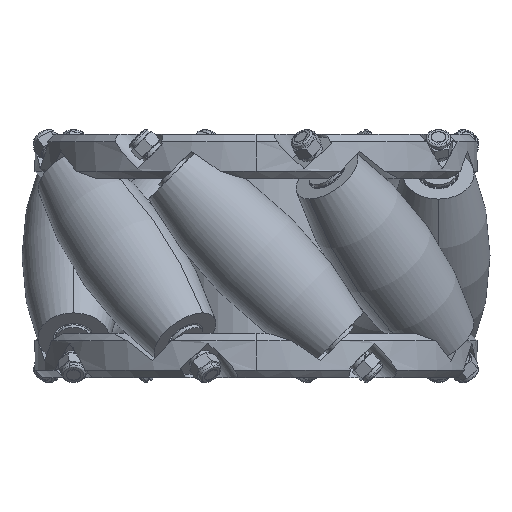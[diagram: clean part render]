
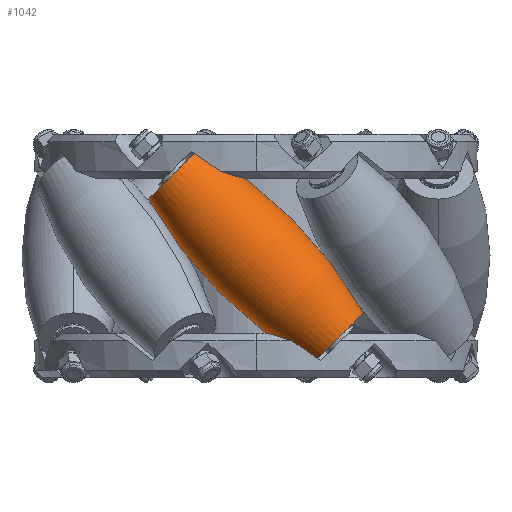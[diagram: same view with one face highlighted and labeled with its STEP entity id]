
A CAD part, left-side view. The second image highlights one B-rep face of the part: STEP entity #1042.
In plain terms, the highlighted toroidal (fillet/blend) face has major radius 102.5 mm and minor radius 116.5 mm.
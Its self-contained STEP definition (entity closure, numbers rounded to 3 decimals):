
#18 = DIRECTION ( 'NONE',  ( -0.707, 0., -0.707 ) ) ;
#1042 = ADVANCED_FACE ( 'NONE', ( #6557 ), #1605, .T. ) ;
#1355 = EDGE_LOOP ( 'NONE', ( #11047, #8821, #3679, #7903 ) ) ;
#1605 = TOROIDAL_SURFACE ( 'NONE', #10546, -102.5, 116.5 ) ;
#1696 = DIRECTION ( 'NONE',  ( -0.707, 0., -0.707 ) ) ;
#2289 = AXIS2_PLACEMENT_3D ( 'NONE', #5559, #18, #6495 ) ;
#3235 = CARTESIAN_POINT ( 'NONE',  ( -22.274, 49.5, -22.274 ) ) ;
#3679 = ORIENTED_EDGE ( 'NONE', *, *, #8191, .F. ) ;
#3866 = CARTESIAN_POINT ( 'NONE',  ( 0., 49.5, 0. ) ) ;
#4166 = DIRECTION ( 'NONE',  ( -0.707, 0., 0.707 ) ) ;
#4609 = DIRECTION ( 'NONE',  ( 0., -1., 0. ) ) ;
#4810 = CARTESIAN_POINT ( 'NONE',  ( -72.478, 49.5, 72.478 ) ) ;
#5324 = DIRECTION ( 'NONE',  ( -0.707, 0., 0.707 ) ) ;
#5559 = CARTESIAN_POINT ( 'NONE',  ( 22.274, 49.5, 22.274 ) ) ;
#5601 = CIRCLE ( 'NONE', #9526, 9.661 ) ;
#5671 = CARTESIAN_POINT ( 'NONE',  ( 29.105, 49.5, 15.443 ) ) ;
#5753 = DIRECTION ( 'NONE',  ( 0., 0., 1. ) ) ;
#5928 = CARTESIAN_POINT ( 'NONE',  ( -15.443, 49.5, -29.105 ) ) ;
#6495 = DIRECTION ( 'NONE',  ( -0.707, 0., 0.707 ) ) ;
#6557 = FACE_OUTER_BOUND ( 'NONE', #1355, .T. ) ;
#7065 = CIRCLE ( 'NONE', #10376, 116.5 ) ;
#7513 = VERTEX_POINT ( 'NONE', #5928 ) ;
#7884 = EDGE_CURVE ( 'NONE', #11020, #11645, #11679, .T. ) ;
#7903 = ORIENTED_EDGE ( 'NONE', *, *, #9595, .F. ) ;
#8030 = EDGE_CURVE ( 'NONE', #11645, #7513, #7065, .T. ) ;
#8191 = EDGE_CURVE ( 'NONE', #11319, #7513, #5601, .T. ) ;
#8821 = ORIENTED_EDGE ( 'NONE', *, *, #8030, .T. ) ;
#8851 = CARTESIAN_POINT ( 'NONE',  ( -29.105, 49.5, -15.443 ) ) ;
#9526 = AXIS2_PLACEMENT_3D ( 'NONE', #3235, #9725, #4166 ) ;
#9595 = EDGE_CURVE ( 'NONE', #11020, #11319, #11534, .T. ) ;
#9668 = CARTESIAN_POINT ( 'NONE',  ( 15.443, 49.5, 29.105 ) ) ;
#9725 = DIRECTION ( 'NONE',  ( -0.707, 0., -0.707 ) ) ;
#10160 = CARTESIAN_POINT ( 'NONE',  ( 72.478, 49.5, -72.478 ) ) ;
#10376 = AXIS2_PLACEMENT_3D ( 'NONE', #4810, #11315, #5753 ) ;
#10546 = AXIS2_PLACEMENT_3D ( 'NONE', #3866, #1696, #5324 ) ;
#11020 = VERTEX_POINT ( 'NONE', #9668 ) ;
#11047 = ORIENTED_EDGE ( 'NONE', *, *, #7884, .T. ) ;
#11113 = DIRECTION ( 'NONE',  ( 0., 0., -1. ) ) ;
#11265 = AXIS2_PLACEMENT_3D ( 'NONE', #10160, #4609, #11113 ) ;
#11315 = DIRECTION ( 'NONE',  ( 0., 1., 0. ) ) ;
#11319 = VERTEX_POINT ( 'NONE', #8851 ) ;
#11534 = CIRCLE ( 'NONE', #11265, 116.5 ) ;
#11645 = VERTEX_POINT ( 'NONE', #5671 ) ;
#11679 = CIRCLE ( 'NONE', #2289, 9.661 ) ;
